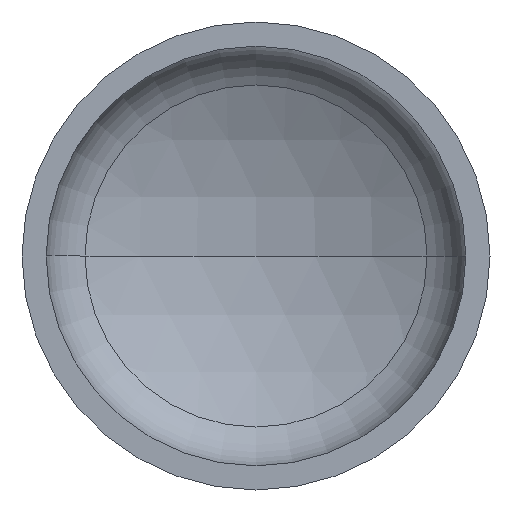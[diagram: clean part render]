
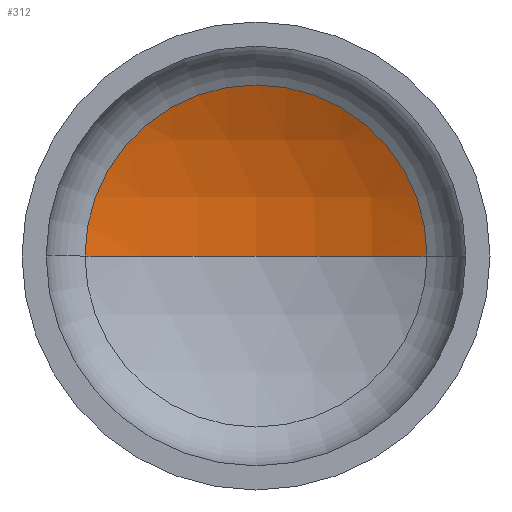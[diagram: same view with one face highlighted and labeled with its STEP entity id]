
A CAD part, front view. The second image highlights one B-rep face of the part: STEP entity #312.
In plain terms, the highlighted spherical face has radius 325 mm.
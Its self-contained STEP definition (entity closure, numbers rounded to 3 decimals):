
#4 = AXIS2_PLACEMENT_3D ( 'NONE', #324, #182, #184 ) ;
#7 = VERTEX_POINT ( 'NONE', #257 ) ;
#10 = EDGE_LOOP ( 'NONE', ( #139, #92, #48 ) ) ;
#11 = AXIS2_PLACEMENT_3D ( 'NONE', #77, #148, #153 ) ;
#19 = AXIS2_PLACEMENT_3D ( 'NONE', #201, #205, #329 ) ;
#26 = AXIS2_PLACEMENT_3D ( 'NONE', #31, #35, #191 ) ;
#31 = CARTESIAN_POINT ( 'NONE',  ( 0., -163.925, 0. ) ) ;
#35 = DIRECTION ( 'NONE',  ( 0., 0., -1. ) ) ;
#42 = VERTEX_POINT ( 'NONE', #288 ) ;
#48 = ORIENTED_EDGE ( 'NONE', *, *, #368, .T. ) ;
#77 = CARTESIAN_POINT ( 'NONE',  ( 0., 125.146, 0. ) ) ;
#81 = CIRCLE ( 'NONE', #11, 148.536 ) ;
#92 = ORIENTED_EDGE ( 'NONE', *, *, #372, .T. ) ;
#122 = VERTEX_POINT ( 'NONE', #323 ) ;
#139 = ORIENTED_EDGE ( 'NONE', *, *, #351, .F. ) ;
#148 = DIRECTION ( 'NONE',  ( 0., -1., 0. ) ) ;
#153 = DIRECTION ( 'NONE',  ( 1., 0., 0. ) ) ;
#182 = DIRECTION ( 'NONE',  ( 0., 0., -1. ) ) ;
#184 = DIRECTION ( 'NONE',  ( -1., 0., 0. ) ) ;
#191 = DIRECTION ( 'NONE',  ( -1., 0., 0. ) ) ;
#201 = CARTESIAN_POINT ( 'NONE',  ( 0., -163.925, 0. ) ) ;
#205 = DIRECTION ( 'NONE',  ( 0., 0., 1. ) ) ;
#257 = CARTESIAN_POINT ( 'NONE',  ( -148.536, 125.146, 0. ) ) ;
#271 = FACE_OUTER_BOUND ( 'NONE', #10, .T. ) ;
#288 = CARTESIAN_POINT ( 'NONE',  ( 0., 161.075, 0. ) ) ;
#312 = ADVANCED_FACE ( 'NONE', ( #271 ), #332, .F. ) ;
#319 = CIRCLE ( 'NONE', #19, 325. ) ;
#323 = CARTESIAN_POINT ( 'NONE',  ( 148.536, 125.146, 0. ) ) ;
#324 = CARTESIAN_POINT ( 'NONE',  ( 0., -163.925, 0. ) ) ;
#329 = DIRECTION ( 'NONE',  ( 1., 0., 0. ) ) ;
#332 = SPHERICAL_SURFACE ( 'NONE', #26, 325. ) ;
#351 = EDGE_CURVE ( 'NONE', #42, #7, #319, .T. ) ;
#368 = EDGE_CURVE ( 'NONE', #122, #7, #81, .T. ) ;
#372 = EDGE_CURVE ( 'NONE', #42, #122, #374, .T. ) ;
#374 = CIRCLE ( 'NONE', #4, 325. ) ;
